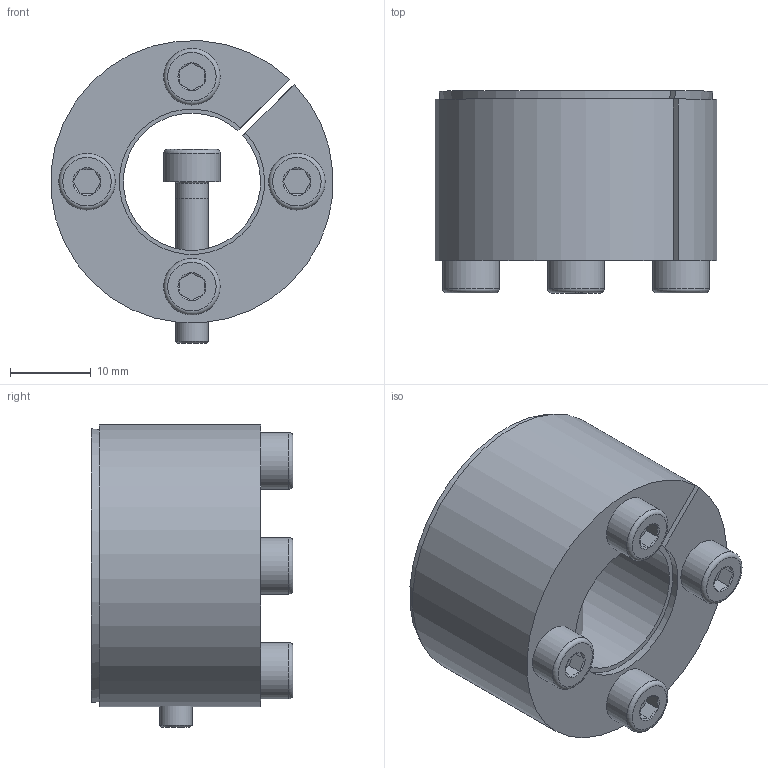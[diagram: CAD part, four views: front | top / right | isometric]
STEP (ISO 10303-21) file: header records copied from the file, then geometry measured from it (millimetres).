
FILE_DESCRIPTION( ( 'Unknown' ), '1' );
FILE_NAME( 'C:/Dokumente und Einstellungen/Sven/Desktop/homepage/cad - homepage/KBS61/KBS 61 - 17 x 35.stp', 'Unknown', ( 'Unknown' ), ( 'Unknown' ), 'XStep 1.0', 'Unknown', ' ' );
FILE_SCHEMA( ( 'automotive_design' ) );
Length unit declared in the file: millimetre
Products named in the file (3): Assem1; KBS 61 - 17 x 35; ISO EN DIN 4762 M4x20
Bounding box: 34.9 x 25 x 37.46 mm (x, y, z)
Volume: 30192.9 mm3; surface area: 14573.2 mm2
Topology: 7 solids, 7 shells, 153 faces, 295 edges, 176 vertices
Faces by surface type: plane 72, cone 39, cylinder 32, torus 10
Full cylindrical faces by diameter (mm): 3.5 x5, 4 x18, 7 x5
Entity records: 1178 total; most frequent: CARTESIAN_POINT 209, DIRECTION 180, ORIENTED_EDGE 134, AXIS2_PLACEMENT_3D 78, EDGE_CURVE 67, EDGE_LOOP 62, FACE_OUTER_BOUND 49, VERTEX_POINT 47
